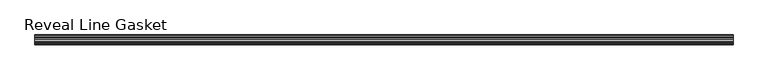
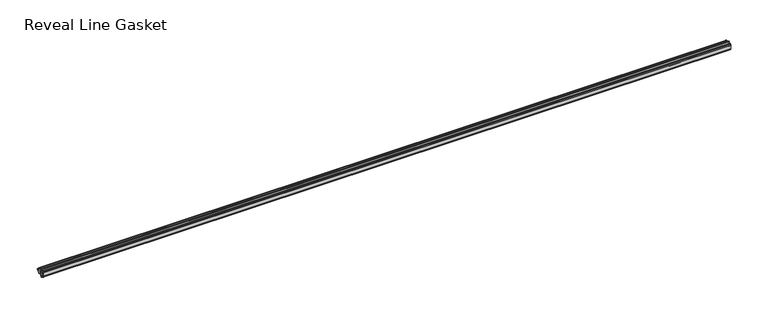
"""IFC4 building model written with IfcOpenShell, lengths in millimetres: proxy geometry, Accessories-Teknion-FHGR-AI_Healthcare-Reveal_Line_Gasket(Horizontal)-R2022 : Reveal Line Gasket."""

from ifc_helpers import new_model, si_unit, point, frame, frame_2d, origin, place, context, project, spatial, polyline, circle_curve, trimmed, segment, composite_curve, outline, extrude, source, transform, mapped, element, save


def reveal_line_gasket_0fc6cbb6(model_context):
    return source(origin(), model_context, "Body", "SweptSolid", [
        extrude(outline(composite_curve([segment(polyline([(-7.6326998, 1603.2), (-7.4091917, 1604.1554927), (-6.8813059, 1605.0884684)]), True, "CONTINUOUS"), segment(trimmed(circle_curve(frame_2d((-6.5243141, 1604.8864793)), 0.4101739), [point((-6.8813059, 1605.0884684))], [point((-6.1246704, 1604.7941347))], False, "CARTESIAN"), True, "CONTINUOUS"), segment(polyline([(-6.1246704, 1604.7941347), (-6.3626997, 1603.0979086), (-6.3626997, 1601.0654527)]), True, "CONTINUOUS"), segment(trimmed(circle_curve(frame_2d((-5.6959605, 1601.4819258)), 0.786124), [point((-6.3626997, 1601.0654527))], [point((-5.0926996, 1600.977875))], True, "CARTESIAN"), True, "CONTINUOUS"), segment(polyline([(-5.0926996, 1600.977875), (-0.7492996, 1600.977875), (-3.7293824, 1606.1395295)]), True, "CONTINUOUS"), segment(trimmed(circle_curve(frame_2d((-3.3132479, 1606.2049761)), 0.4212495), [point((-3.7293824, 1606.1395295))], [point((-3.0485022, 1606.5326358))], False, "CARTESIAN"), True, "CONTINUOUS"), segment(polyline([(-3.0485022, 1606.5326358), (0.5742594, 1600.977875), (4.8262978, 1600.977875), (3.1660374, 1603.8535297)]), True, "CONTINUOUS"), segment(trimmed(circle_curve(frame_2d((3.5978728, 1603.9118855)), 0.4357605), [point((3.1660374, 1603.8535297))], [point((3.864328, 1604.2566881))], False, "CARTESIAN"), True, "CONTINUOUS"), segment(polyline([(3.864328, 1604.2566881), (6.1944059, 1600.977875), (7.6326998, 1600.977875), (7.6326998, 1599.422125), (6.1944059, 1599.422125), (3.864328, 1596.1433119)]), True, "CONTINUOUS"), segment(trimmed(circle_curve(frame_2d((3.5978728, 1596.4881145)), 0.4357605), [point((3.864328, 1596.1433119))], [point((3.1660374, 1596.5464703))], False, "CARTESIAN"), True, "CONTINUOUS"), segment(polyline([(3.1660374, 1596.5464703), (4.8262978, 1599.422125), (0.5742594, 1599.422125), (-3.0485022, 1593.8673642)]), True, "CONTINUOUS"), segment(trimmed(circle_curve(frame_2d((-3.3132479, 1594.1950239)), 0.4212495), [point((-3.0485022, 1593.8673642))], [point((-3.7293824, 1594.2604705))], False, "CARTESIAN"), True, "CONTINUOUS"), segment(polyline([(-3.7293824, 1594.2604705), (-0.7492996, 1599.422125), (-5.0926996, 1599.422125)]), True, "CONTINUOUS"), segment(trimmed(circle_curve(frame_2d((-5.6959605, 1598.9180742)), 0.786124), [point((-5.0926996, 1599.422125))], [point((-6.3626997, 1599.3345473))], True, "CARTESIAN"), True, "CONTINUOUS"), segment(polyline([(-6.3626997, 1599.3345473), (-6.3626997, 1597.3020914), (-6.1246704, 1595.6058653)]), True, "CONTINUOUS"), segment(trimmed(circle_curve(frame_2d((-6.5243141, 1595.5135207)), 0.4101739), [point((-6.1246704, 1595.6058653))], [point((-6.8813059, 1595.3115316))], False, "CARTESIAN"), True, "CONTINUOUS"), segment(polyline([(-6.8813059, 1595.3115316), (-7.4091917, 1596.2445073), (-7.6326998, 1597.2), (-7.6326998, 1603.2)]), True, "CONTINUOUS")], self_intersect=False)), frame((-531.5204, 0.0, 0.0), z_axis=(1.0, 0.0, 0.0), x_axis=(0.0, 1.0, 0.0)), (0.0, 0.0, 1.0), 1063.0408),
    ])


if __name__ == "__main__":
    model = new_model("IFC4")
    model_context = context("Model", 3, world=origin())
    ifc_project = project(units=[si_unit("LENGTHUNIT", "METRE", prefix="MILLI")], contexts=[model_context])
    site = spatial("IfcSite", under=ifc_project)
    building = spatial("IfcBuilding", under=site)
    placement = place(None, origin())
    reveal_line_gasket_shape = reveal_line_gasket_0fc6cbb6(model_context)
    element("IfcBuildingElementProxy", 1, Name="Accessories-Teknion-FHGR-AI_Healthcare-Reveal_Line_Gasket(Horizontal)-R2022 : Reveal Line Gasket", ObjectType="Accessories-Teknion-FHGR-AI_Healthcare-Reveal_Line_Gasket(Horizontal)-R2022 : Reveal Line Gasket", at=placement, inside=building, context=model_context, shape_type="MappedRepresentation", body=[
        mapped(reveal_line_gasket_shape, transform((0.0, 0.0, 0.0), x_axis=(1.0, 0.0, 0.0), y_axis=(0.0, 1.0, 0.0), z_axis=(0.0, 0.0, 1.0))),
    ])
    save(model, "model.ifc")
